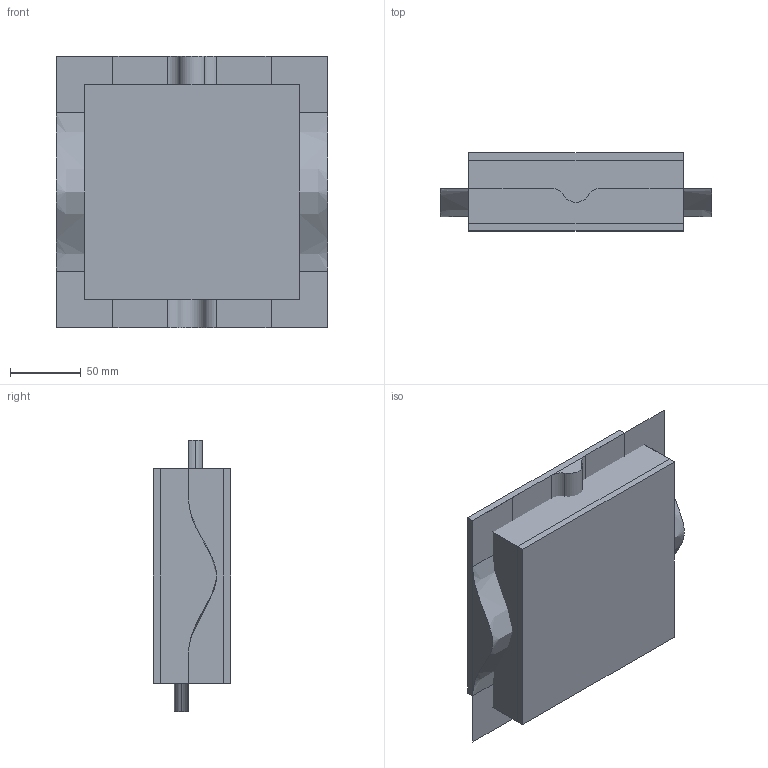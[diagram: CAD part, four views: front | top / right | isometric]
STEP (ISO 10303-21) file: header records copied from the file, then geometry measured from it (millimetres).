
FILE_DESCRIPTION(('CATIA V5 STEP Exchange'),'2;1');
FILE_NAME('C:\_Andres\UNIVERSIDAD\IQS\ASIGNATURAS\DAO\EXF\EXF-16172c\2inicio\Esteba_Torres_Ej02_v12.stp','2017-03-05T15:45:22+00:00',('none'),('none'),'CATIA Version 5-6 Release 2014 SP1 HF18','CATIA V5 STEP AP203','none');
FILE_SCHEMA(('CONFIG_CONTROL_DESIGN'));
Length unit declared in the file: millimetre
Products named in the file (1): Esteba_Torres_Ej02_v12
Bounding box: 192 x 55 x 192 mm (x, y, z)
Surface area: 235902.6 mm2
Topology: 3 solids, 10 shells, 72 faces, 205 edges, 150 vertices
Faces by surface type: bspline 32, plane 32, cylinder 6, extrusion 2
Entity records: 6758 total; most frequent: CARTESIAN_POINT 5441, ORIENTED_EDGE 288, DIRECTION 151, EDGE_CURVE 132, VERTEX_POINT 84, VECTOR 77, LINE 75, ADVANCED_FACE 72
